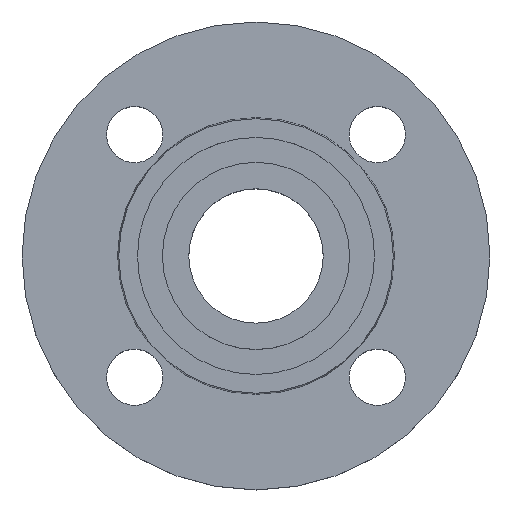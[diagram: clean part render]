
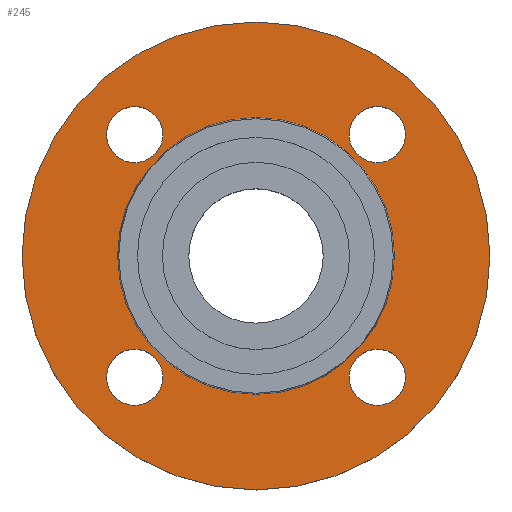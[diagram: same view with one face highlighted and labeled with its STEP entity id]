
A CAD part, top view. The second image highlights one B-rep face of the part: STEP entity #245.
In plain terms, the highlighted planar face has unit normal (0, 0, 1).
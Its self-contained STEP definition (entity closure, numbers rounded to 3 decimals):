
#4 = CARTESIAN_POINT ( 'NONE',  ( 29.891, 38.891, -2. ) ) ;
#6 = DIRECTION ( 'NONE',  ( -1., 0., 0. ) ) ;
#10 = DIRECTION ( 'NONE',  ( 0., 0., -1. ) ) ;
#17 = CIRCLE ( 'NONE', #19, 9. ) ;
#18 = CARTESIAN_POINT ( 'NONE',  ( 0., 0., -2. ) ) ;
#19 = AXIS2_PLACEMENT_3D ( 'NONE', #249, #712, #322 ) ;
#30 = FACE_BOUND ( 'NONE', #775, .T. ) ;
#35 = CIRCLE ( 'NONE', #36, 75. ) ;
#36 = AXIS2_PLACEMENT_3D ( 'NONE', #143, #154, #150 ) ;
#43 = FACE_BOUND ( 'NONE', #789, .T. ) ;
#48 = DIRECTION ( 'NONE',  ( 1., 0., 0. ) ) ;
#49 = CIRCLE ( 'NONE', #223, 9. ) ;
#50 = DIRECTION ( 'NONE',  ( 0., 0., -1. ) ) ;
#53 = CIRCLE ( 'NONE', #711, 9. ) ;
#58 = CARTESIAN_POINT ( 'NONE',  ( -38.891, 38.891, -2. ) ) ;
#59 = DIRECTION ( 'NONE',  ( 1., 0., 0. ) ) ;
#60 = DIRECTION ( 'NONE',  ( 0., 0., 1. ) ) ;
#66 = FACE_OUTER_BOUND ( 'NONE', #931, .T. ) ;
#67 = PLANE ( 'NONE',  #302 ) ;
#69 = CARTESIAN_POINT ( 'NONE',  ( 44.353, 0., -2. ) ) ;
#70 = AXIS2_PLACEMENT_3D ( 'NONE', #114, #113, #112 ) ;
#90 = DIRECTION ( 'NONE',  ( 1., 0., 0. ) ) ;
#94 = DIRECTION ( 'NONE',  ( 0., 0., -1. ) ) ;
#96 = CARTESIAN_POINT ( 'NONE',  ( 47.891, 38.891, -2. ) ) ;
#98 = CARTESIAN_POINT ( 'NONE',  ( -29.891, 38.891, -2. ) ) ;
#105 = CARTESIAN_POINT ( 'NONE',  ( -47.891, -38.891, -2. ) ) ;
#109 = AXIS2_PLACEMENT_3D ( 'NONE', #18, #10, #6 ) ;
#112 = DIRECTION ( 'NONE',  ( -1., 0., 0. ) ) ;
#113 = DIRECTION ( 'NONE',  ( 0., 0., -1. ) ) ;
#114 = CARTESIAN_POINT ( 'NONE',  ( 0., 0., -2. ) ) ;
#121 = CARTESIAN_POINT ( 'NONE',  ( -38.891, -38.891, -2. ) ) ;
#122 = CIRCLE ( 'NONE', #109, 44.353 ) ;
#126 = CARTESIAN_POINT ( 'NONE',  ( 75., 0., -2. ) ) ;
#141 = CIRCLE ( 'NONE', #526, 9. ) ;
#142 = CARTESIAN_POINT ( 'NONE',  ( -47.891, 38.891, -2. ) ) ;
#143 = CARTESIAN_POINT ( 'NONE',  ( 0., 0., -2. ) ) ;
#150 = DIRECTION ( 'NONE',  ( -1., 0., 0. ) ) ;
#151 = CARTESIAN_POINT ( 'NONE',  ( 29.891, -38.891, -2. ) ) ;
#154 = DIRECTION ( 'NONE',  ( 0., 0., -1. ) ) ;
#179 = CARTESIAN_POINT ( 'NONE',  ( 44.353, 0., -2. ) ) ;
#195 = AXIS2_PLACEMENT_3D ( 'NONE', #244, #263, #274 ) ;
#197 = DIRECTION ( 'NONE',  ( 1., 0., 0. ) ) ;
#198 = CARTESIAN_POINT ( 'NONE',  ( -38.891, 38.891, -2. ) ) ;
#200 = DIRECTION ( 'NONE',  ( 0., 0., -1. ) ) ;
#201 = CARTESIAN_POINT ( 'NONE',  ( 38.891, 38.891, -2. ) ) ;
#208 = CARTESIAN_POINT ( 'NONE',  ( 38.891, -38.891, -2. ) ) ;
#223 = AXIS2_PLACEMENT_3D ( 'NONE', #198, #565, #231 ) ;
#230 = CIRCLE ( 'NONE', #195, 75. ) ;
#231 = DIRECTION ( 'NONE',  ( 1., 0., 0. ) ) ;
#237 = EDGE_CURVE ( 'NONE', #612, #922, #288, .T. ) ;
#244 = CARTESIAN_POINT ( 'NONE',  ( 0., 0., -2. ) ) ;
#245 = ADVANCED_FACE ( 'NONE', ( #983, #984, #326, #43, #30, #66 ), #67, .T. ) ;
#249 = CARTESIAN_POINT ( 'NONE',  ( -38.891, -38.891, -2. ) ) ;
#263 = DIRECTION ( 'NONE',  ( 0., 0., -1. ) ) ;
#274 = DIRECTION ( 'NONE',  ( -1., 0., 0. ) ) ;
#288 = CIRCLE ( 'NONE', #567, 9. ) ;
#302 = AXIS2_PLACEMENT_3D ( 'NONE', #69, #60, #59 ) ;
#320 = AXIS2_PLACEMENT_3D ( 'NONE', #58, #50, #48 ) ;
#322 = DIRECTION ( 'NONE',  ( 1., 0., 0. ) ) ;
#326 = FACE_BOUND ( 'NONE', #911, .T. ) ;
#330 = CIRCLE ( 'NONE', #320, 9. ) ;
#343 = AXIS2_PLACEMENT_3D ( 'NONE', #208, #461, #577 ) ;
#394 = CIRCLE ( 'NONE', #70, 44.353 ) ;
#400 = EDGE_CURVE ( 'NONE', #899, #692, #141, .T. ) ;
#448 = EDGE_CURVE ( 'NONE', #627, #929, #230, .T. ) ;
#461 = DIRECTION ( 'NONE',  ( 0., 0., -1. ) ) ;
#493 = CIRCLE ( 'NONE', #343, 9. ) ;
#499 = CARTESIAN_POINT ( 'NONE',  ( 38.891, 38.891, -2. ) ) ;
#500 = DIRECTION ( 'NONE',  ( 0., 0., -1. ) ) ;
#501 = DIRECTION ( 'NONE',  ( 1., 0., 0. ) ) ;
#526 = AXIS2_PLACEMENT_3D ( 'NONE', #499, #500, #501 ) ;
#565 = DIRECTION ( 'NONE',  ( 0., 0., -1. ) ) ;
#567 = AXIS2_PLACEMENT_3D ( 'NONE', #978, #980, #982 ) ;
#577 = DIRECTION ( 'NONE',  ( 1., 0., 0. ) ) ;
#584 = EDGE_CURVE ( 'NONE', #692, #899, #791, .T. ) ;
#595 = CARTESIAN_POINT ( 'NONE',  ( -75., 0., -2. ) ) ;
#612 = VERTEX_POINT ( 'NONE', #151 ) ;
#615 = CARTESIAN_POINT ( 'NONE',  ( 47.891, -38.891, -2. ) ) ;
#617 = VERTEX_POINT ( 'NONE', #142 ) ;
#627 = VERTEX_POINT ( 'NONE', #126 ) ;
#637 = EDGE_CURVE ( 'NONE', #938, #877, #394, .T. ) ;
#655 = EDGE_LOOP ( 'NONE', ( #737, #740 ) ) ;
#656 = VERTEX_POINT ( 'NONE', #105 ) ;
#680 = VERTEX_POINT ( 'NONE', #98 ) ;
#692 = VERTEX_POINT ( 'NONE', #96 ) ;
#711 = AXIS2_PLACEMENT_3D ( 'NONE', #121, #94, #90 ) ;
#712 = DIRECTION ( 'NONE',  ( 0., 0., -1. ) ) ;
#719 = AXIS2_PLACEMENT_3D ( 'NONE', #201, #200, #197 ) ;
#733 = EDGE_CURVE ( 'NONE', #680, #617, #330, .T. ) ;
#737 = ORIENTED_EDGE ( 'NONE', *, *, #787, .T. ) ;
#740 = ORIENTED_EDGE ( 'NONE', *, *, #237, .T. ) ;
#741 = ORIENTED_EDGE ( 'NONE', *, *, #903, .T. ) ;
#742 = ORIENTED_EDGE ( 'NONE', *, *, #827, .T. ) ;
#743 = ORIENTED_EDGE ( 'NONE', *, *, #733, .T. ) ;
#744 = ORIENTED_EDGE ( 'NONE', *, *, #891, .T. ) ;
#745 = ORIENTED_EDGE ( 'NONE', *, *, #584, .T. ) ;
#746 = ORIENTED_EDGE ( 'NONE', *, *, #400, .T. ) ;
#747 = ORIENTED_EDGE ( 'NONE', *, *, #637, .T. ) ;
#748 = ORIENTED_EDGE ( 'NONE', *, *, #777, .T. ) ;
#750 = ORIENTED_EDGE ( 'NONE', *, *, #448, .F. ) ;
#751 = ORIENTED_EDGE ( 'NONE', *, *, #847, .F. ) ;
#775 = EDGE_LOOP ( 'NONE', ( #747, #748 ) ) ;
#777 = EDGE_CURVE ( 'NONE', #877, #938, #122, .T. ) ;
#787 = EDGE_CURVE ( 'NONE', #922, #612, #493, .T. ) ;
#789 = EDGE_LOOP ( 'NONE', ( #745, #746 ) ) ;
#791 = CIRCLE ( 'NONE', #719, 9. ) ;
#827 = EDGE_CURVE ( 'NONE', #656, #910, #17, .T. ) ;
#847 = EDGE_CURVE ( 'NONE', #929, #627, #35, .T. ) ;
#877 = VERTEX_POINT ( 'NONE', #179 ) ;
#891 = EDGE_CURVE ( 'NONE', #617, #680, #49, .T. ) ;
#899 = VERTEX_POINT ( 'NONE', #4 ) ;
#903 = EDGE_CURVE ( 'NONE', #910, #656, #53, .T. ) ;
#910 = VERTEX_POINT ( 'NONE', #932 ) ;
#911 = EDGE_LOOP ( 'NONE', ( #743, #744 ) ) ;
#922 = VERTEX_POINT ( 'NONE', #615 ) ;
#923 = EDGE_LOOP ( 'NONE', ( #741, #742 ) ) ;
#929 = VERTEX_POINT ( 'NONE', #595 ) ;
#931 = EDGE_LOOP ( 'NONE', ( #750, #751 ) ) ;
#932 = CARTESIAN_POINT ( 'NONE',  ( -29.891, -38.891, -2. ) ) ;
#938 = VERTEX_POINT ( 'NONE', #977 ) ;
#977 = CARTESIAN_POINT ( 'NONE',  ( -44.353, 0., -2. ) ) ;
#978 = CARTESIAN_POINT ( 'NONE',  ( 38.891, -38.891, -2. ) ) ;
#980 = DIRECTION ( 'NONE',  ( 0., 0., -1. ) ) ;
#982 = DIRECTION ( 'NONE',  ( 1., 0., 0. ) ) ;
#983 = FACE_BOUND ( 'NONE', #655, .T. ) ;
#984 = FACE_BOUND ( 'NONE', #923, .T. ) ;
